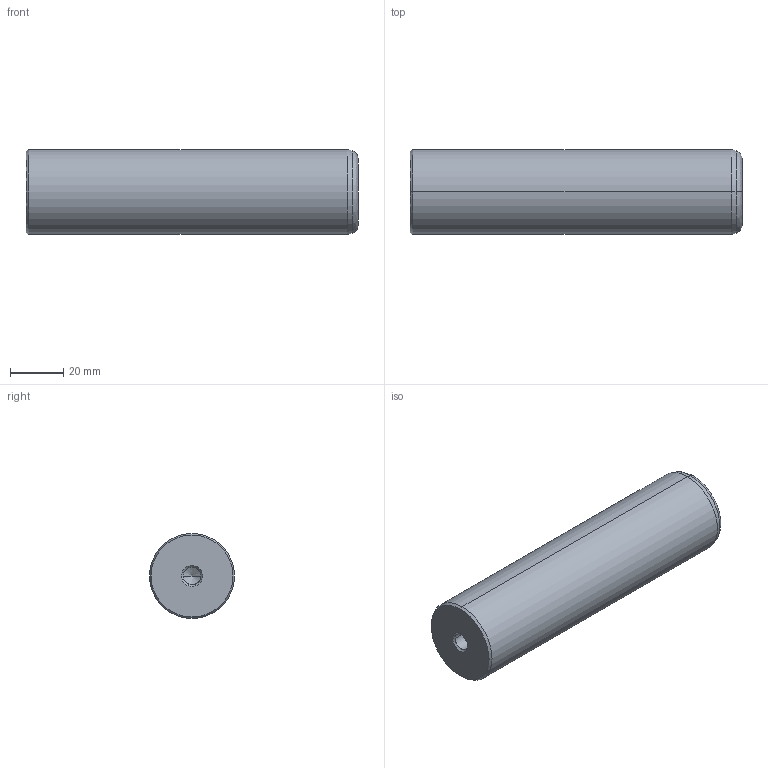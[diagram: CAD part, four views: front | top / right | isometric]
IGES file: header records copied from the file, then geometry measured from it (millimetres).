
Start section: START RECORD GO HERE.
Global section: file name: 720-32x125.igs; native system: DASSAULT SYSTEMES CATIA V5 R20 - www.3ds.com; preprocessor: CATIA Version 5 Release 20 ; author: Utente; organization: NB04-ASUS; date: 20210101.132119; units: millimetre
Bounding box: 125 x 32 x 32 mm (x, y, z)
Surface area: 14959.1 mm2 (no closed solid volume)
Topology: 0 solids, 0 shells, 22 faces, 120 edges, 116 vertices
Faces by surface type: revolution 20, plane 2
